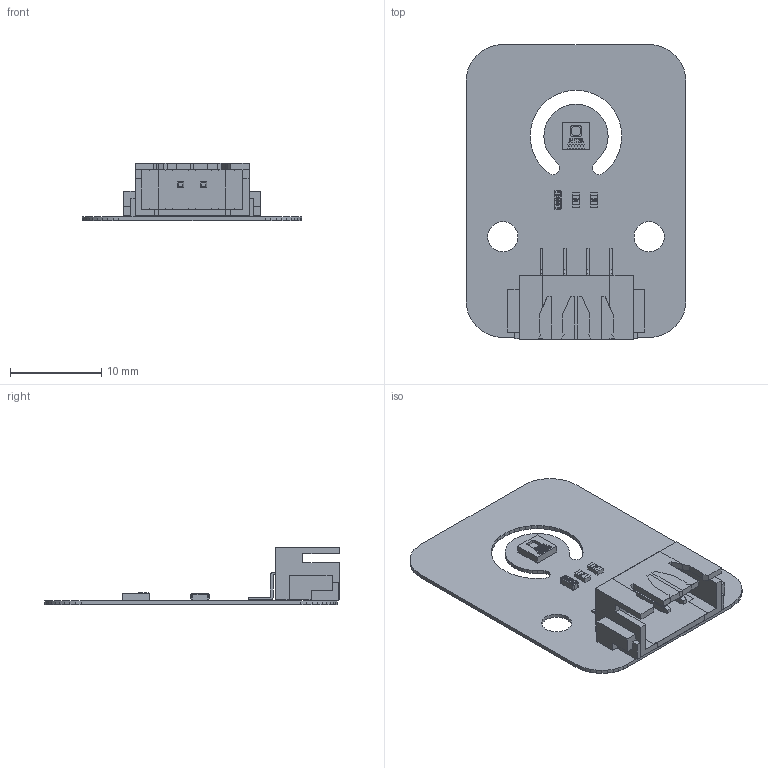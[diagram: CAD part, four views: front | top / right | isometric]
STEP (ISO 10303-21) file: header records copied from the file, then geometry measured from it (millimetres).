
FILE_DESCRIPTION(('Open CASCADE Model'),'2;1');
FILE_NAME('Open CASCADE Shape Model','2024-09-13T23:53:03',('Author'),( 'Open CASCADE'),'Open CASCADE STEP processor 6.5','Open CASCADE 6.5' ,'Unknown');
FILE_SCHEMA(('AUTOMOTIVE_DESIGN { 1 0 10303 214 1 1 1 1 }'));
Length unit declared in the file: millimetre
Products named in the file (11): PCB; Board; U1; AHT21; R2; 0603_R; R1; C1; User_Library-0603(1608M)_Cap; P2; 4pin-2.5
Assembly tree (11 placements, depth 3):
  PCB
    Board
    U1
      AHT21
    R2
      0603_R
    R1
      0603_R
    C1
      User_Library-0603(1608M)_Cap
    P2
      4pin-2.5
Bounding box: 24.02 x 32.25 x 6.29 mm (x, y, z)
Volume: 598.6 mm3; surface area: 2569.8 mm2
Topology: 9 solids, 9 shells, 770 faces, 2112 edges, 1387 vertices
Faces by surface type: plane 622, bspline 84, cylinder 54, extrusion 10
Full cylindrical faces by diameter (mm): 3.3 x2
Entity records: 58212 total; most frequent: CARTESIAN_POINT 15321, DIRECTION 6517, VECTOR 4965, LINE 4960, ORIENTED_EDGE 4016, PCURVE 4016, DEFINITIONAL_REPRESENTATION 4016, EDGE_CURVE 2008
